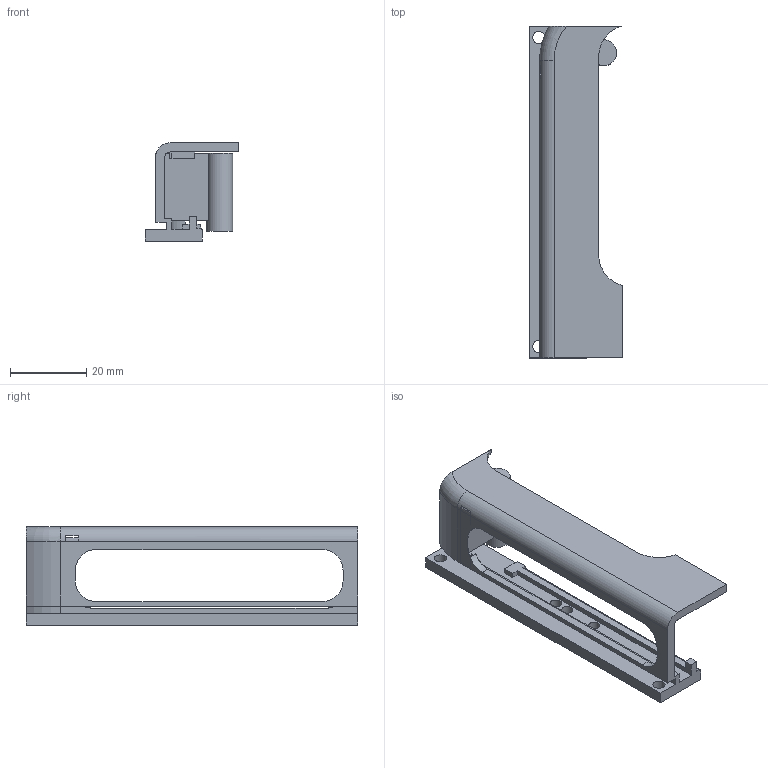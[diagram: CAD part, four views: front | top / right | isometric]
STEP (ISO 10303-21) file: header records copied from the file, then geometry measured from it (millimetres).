
FILE_DESCRIPTION(('Open CASCADE Model'),'2;1');
FILE_NAME('Open CASCADE Shape Model','2026-09-06T11:45:45',('Author'),( 'Open CASCADE'),'Open CASCADE STEP processor 7.7','Open CASCADE 7.7' ,'Unknown');
FILE_SCHEMA(('AUTOMOTIVE_DESIGN { 1 0 10303 214 1 1 1 1 }'));
Length unit declared in the file: millimetre
Products named in the file (1): Open CASCADE STEP translator 7.7 2
Bounding box: 24.5 x 87 x 25.8 mm (x, y, z)
Volume: 10360.5 mm3; surface area: 10063.1 mm2
Topology: 1 solids, 1 shells, 120 faces, 346 edges, 230 vertices
Faces by surface type: plane 83, cylinder 35, torus 2
Full cylindrical faces by diameter (mm): 1.25 x2, 1.6 x1, 2.1 x1, 3 x3, 3.2 x2, 4 x1, 6.8 x1
Entity records: 8730 total; most frequent: CARTESIAN_POINT 1920, DIRECTION 1244, LINE 778, VECTOR 778, ORIENTED_EDGE 692, PCURVE 692, DEFINITIONAL_REPRESENTATION 692, EDGE_CURVE 346
